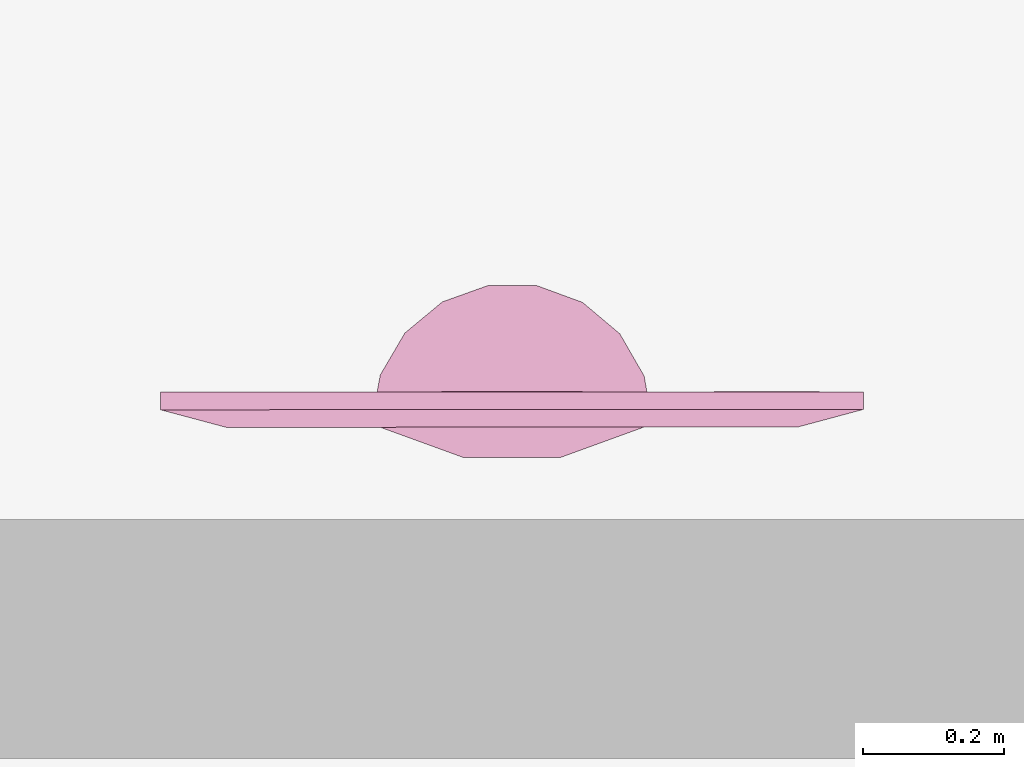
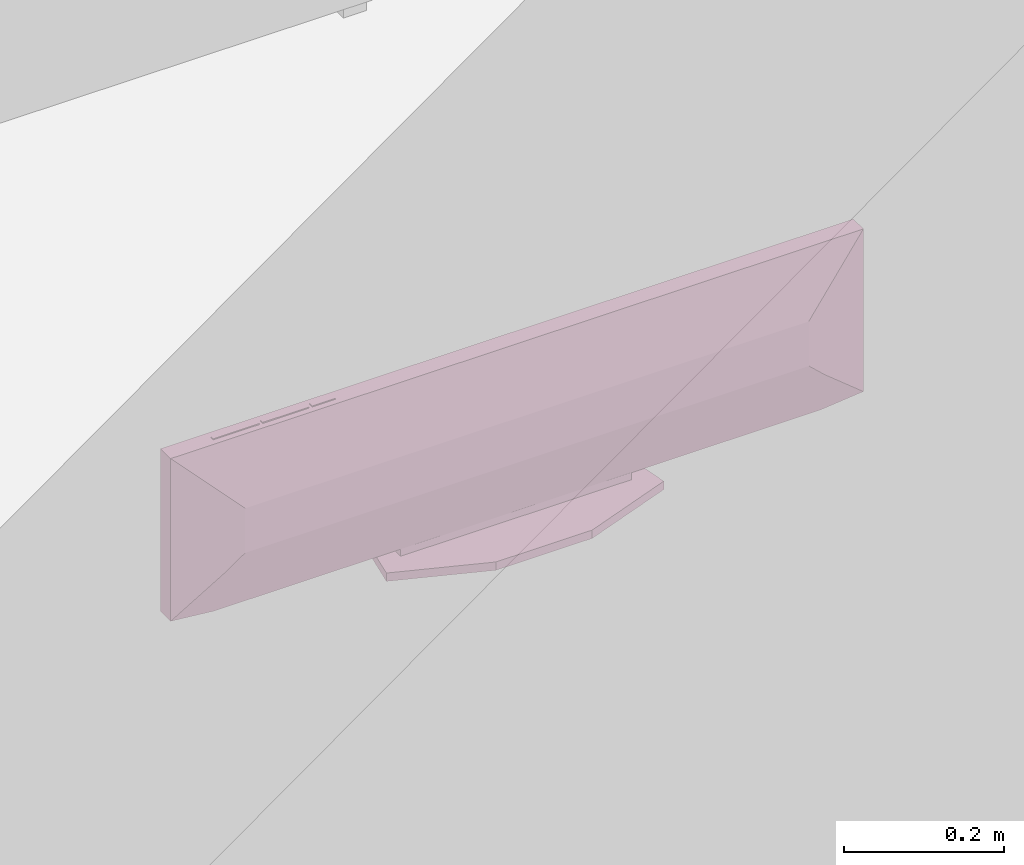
# One storey, part 133 of 171: 1 furnishing.
"""IFC2X3 building model written with IfcOpenShell, lengths in millimetres."""

from ifc_helpers import new_model, entity, si_unit, converted_unit, derived_unit, money_unit, direction, frame, origin_with_axes, place, context, subcontext, project, spatial, faceted_brep, source, transform, mapped, type_object, element, save


model = new_model("IFC2X3")

# Units and contexts
model_context = context("Model", 3, precision=0.01, world=origin_with_axes(), true_north=direction((0.0, 1.0)))
body_context = subcontext(model_context, "Body", "Model", "MODEL_VIEW")
ifc_project = project(units=[si_unit("LENGTHUNIT", "METRE", prefix="MILLI"), si_unit("AREAUNIT", "SQUARE_METRE"), si_unit("VOLUMEUNIT", "CUBIC_METRE"), converted_unit("PLANEANGLEUNIT", "DEGREE", entity("IfcPlaneAngleMeasure", 0.0174532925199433), si_unit("PLANEANGLEUNIT", "RADIAN"), dimensions=[0, 0, 0, 0, 0, 0, 0]), money_unit("USD"), converted_unit("TIMEUNIT", "Year", entity("IfcTimeMeasure", 31557600.0), si_unit("TIMEUNIT", "SECOND"), dimensions=[0, 0, 1, 0, 0, 0, 0]), si_unit("MASSUNIT", "GRAM", prefix="KILO"), si_unit("THERMODYNAMICTEMPERATUREUNIT", "DEGREE_CELSIUS"), si_unit("LUMINOUSINTENSITYUNIT", "LUMEN"), si_unit("ENERGYUNIT", "JOULE", prefix="MEGA"), derived_unit("THERMALCONDUCTANCEUNIT", [(si_unit("POWERUNIT", "WATT"), 1), (si_unit("LENGTHUNIT", "METRE"), -1), (si_unit("THERMODYNAMICTEMPERATUREUNIT", "KELVIN"), -1)]), derived_unit("SPECIFICHEATCAPACITYUNIT", [(si_unit("ENERGYUNIT", "JOULE"), 1), (si_unit("MASSUNIT", "GRAM", prefix="KILO"), -1), (si_unit("THERMODYNAMICTEMPERATUREUNIT", "KELVIN"), -1)]), derived_unit("MASSDENSITYUNIT", [(si_unit("MASSUNIT", "GRAM", prefix="KILO"), 1), (si_unit("VOLUMEUNIT", "CUBIC_METRE"), -1)])], contexts=[model_context])

# Site, building, storey
site_placement = place(None, origin_with_axes())
site = spatial("IfcSite", under=ifc_project, at=site_placement, Name="Site", CompositionType="ELEMENT")
building_placement = place(site_placement, origin_with_axes())
building = spatial("IfcBuilding", under=site, at=building_placement, Name="Bâtiment", CompositionType="ELEMENT")
storey_placement = place(building_placement, frame((0.0, 0.0, 3000.0), z_axis=(0.0, 0.0, 1.0), x_axis=(1.0, 0.0, 0.0)))
storey = spatial("IfcBuildingStorey", under=building, at=storey_placement, Name="rdc", CompositionType="ELEMENT", Elevation=3000.0)

# Furnishing
furnishing_element_type = type_object("IfcFurnishingElementType", Name="Ecran TV plasma")
shared_shape = source(origin_with_axes(), body_context, "Body", "Brep", [
    faceted_brep([(300.0, 45.45454545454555, 0.0), (311.9952377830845, -22.76722074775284, 0.0), (311.9952377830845, -22.76722074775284, 12.72727272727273), (300.0, 45.45454545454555, 12.72727272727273), (300.362869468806, 45.66379498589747, 0.0), (430.8157560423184, 93.01588086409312, 0.0), (569.5967719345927, 92.94321528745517, 0.0), (700.0000000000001, 45.45454545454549, 0.0), (699.9923846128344, 43.70923835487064, 0.0), (687.402263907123, -24.40525330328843, 0.0), (652.3327960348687, -84.13989598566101, 0.0), (598.9906470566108, -128.3293772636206, 0.0), (533.7743345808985, -151.6730637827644, 0.0), (464.5067103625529, -151.3708248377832, 0.0), (399.4965906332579, -127.4589147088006, 0.0), (346.5420938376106, -82.80562387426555, 0.0), (346.5420938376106, -82.80562387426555, 12.72727272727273), (399.4965906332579, -127.4589147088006, 12.72727272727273), (464.5067103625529, -151.3708248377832, 12.72727272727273), (533.7743345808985, -151.6730637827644, 12.72727272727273), (598.9906470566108, -128.3293772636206, 12.72727272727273), (652.3327960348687, -84.13989598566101, 12.72727272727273), (687.402263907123, -24.40525330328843, 12.72727272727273), (699.9923846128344, 43.70923835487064, 12.72727272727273), (700.0000000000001, 45.45454545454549, 12.72727272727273), (569.5967719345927, 92.94321528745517, 12.72727272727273), (430.8157560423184, 93.01588086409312, 12.72727272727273), (300.362869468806, 45.66379498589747, 12.72727272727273)], [[[0, 1, 2, 3]], [[0, 4, 5, 6, 7, 8, 9, 10, 11, 12, 13, 14, 15, 1]], [[1, 15, 16, 2]], [[3, 2, 16, 17, 18, 19, 20, 21, 22, 23, 24, 25, 26, 27]], [[4, 0, 3, 27]], [[5, 4, 27, 26]], [[6, 5, 26, 25]], [[7, 6, 25, 24]], [[8, 7, 24, 23]], [[9, 8, 23, 22]], [[10, 9, 22, 21]], [[11, 10, 21, 20]], [[12, 11, 20, 19]], [[13, 12, 19, 18]], [[14, 13, 18, 17]], [[15, 14, 17, 16]]]),
    faceted_brep([(666.6666666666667, 2.500000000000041, 12.72727272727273), (666.6666666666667, 22.50000000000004, 12.72727272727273), (666.6666666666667, 22.50000000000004, 25.45454545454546), (666.6666666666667, 2.500000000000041, 25.45454545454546), (333.3333333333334, 2.500000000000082, 12.72727272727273), (333.3333333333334, 22.50000000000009, 12.72727272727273), (333.3333333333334, 22.50000000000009, 25.45454545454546), (333.3333333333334, 2.500000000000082, 25.45454545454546)], [[[0, 1, 2, 3]], [[0, 4, 5, 1]], [[1, 5, 6, 2]], [[3, 2, 6, 7]], [[4, 0, 3, 7]], [[5, 4, 7, 6]]]),
    faceted_brep([(62.5, -0.2539999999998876, 65.45454545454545), (62.5, -0.2539999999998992, 254.5454545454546), (62.5, 0.0, 254.5454545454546), (62.5, 0.0, 65.45454545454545), (937.5, -0.2539999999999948, 65.45454545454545), (937.5, -0.2540000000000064, 254.5454545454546), (937.5, 0.0, 254.5454545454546), (937.5, 0.0, 65.45454545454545)], [[[0, 1, 2, 3]], [[0, 4, 5, 1]], [[1, 5, 6, 2]], [[3, 2, 6, 7]], [[4, 0, 3, 7]], [[5, 4, 7, 6]]]),
    faceted_brep([(937.5, 0.0, 25.45454545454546), (1000.0, 0.0, 31.81818181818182), (1000.0, 0.0, 280.0), (0.0, 0.0, 280.0), (0.0, 0.0, 31.81818181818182), (62.5, 0.0, 25.45454545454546), (937.5000003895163, 25.00000000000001, 25.4545450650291), (1000.000000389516, 25.0, 31.81818187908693), (1000.000000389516, 24.99999999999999, 279.9999999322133), (3.895163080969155e-07, 25.00000000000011, 279.9999999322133), (3.895163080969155e-07, 25.00000000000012, 31.81818187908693), (62.50000038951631, 25.00000000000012, 25.4545450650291), (934.156616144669, 42.64268163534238, 91.29792930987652), (906.6987288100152, 50.00000037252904, 118.7558166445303), (906.6987288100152, 50.00000037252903, 186.6987283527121), (93.30127196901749, 50.00000037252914, 186.6987283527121), (93.30127196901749, 50.00000037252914, 118.7558166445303), (65.84338463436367, 42.64268163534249, 91.29792930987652)], [[[0, 1, 2, 3, 4, 5]], [[1, 0, 6, 7]], [[2, 1, 7, 8]], [[3, 2, 8, 9]], [[4, 3, 9, 10]], [[5, 4, 10, 11]], [[0, 5, 11, 6]], [[7, 6, 12]], [[8, 7, 12, 13, 14]], [[9, 8, 14, 15]], [[10, 9, 15, 16, 17]], [[11, 10, 17]], [[6, 11, 17, 16, 13, 12]], [[14, 13, 16, 15]]]),
    faceted_brep([(500.0, -0.7937499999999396, 39.45454545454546), (490.0, -0.7937499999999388, 46.45454545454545), (490.0, 0.0, 46.45454545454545), (500.0, 0.0, 39.45454545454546), (510.0, -0.7937499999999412, 46.45454545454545), (600.0, -0.7937499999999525, 52.18181818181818), (400.0, -0.7937499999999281, 52.18181818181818), (400.0, 0.0, 52.18181818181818), (600.0, 0.0, 52.18181818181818), (510.0, 0.0, 46.45454545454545)], [[[0, 1, 2, 3]], [[0, 4, 5, 6, 1]], [[1, 6, 7, 2]], [[3, 2, 7, 8, 9]], [[4, 0, 3, 9]], [[5, 4, 9, 8]], [[6, 5, 8, 7]]]),
    faceted_brep([(866.6666666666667, 10.0, 280.0), (933.3333333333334, 9.999999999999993, 280.0), (933.3333333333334, 9.999999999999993, 281.5875), (866.6666666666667, 10.0, 281.5875), (866.6666666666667, 16.25, 280.0), (933.3333333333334, 16.24999999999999, 280.0), (933.3333333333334, 16.24999999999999, 281.5875), (866.6666666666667, 16.25, 281.5875)], [[[0, 1, 2, 3]], [[1, 0, 4, 5]], [[2, 1, 5, 6]], [[3, 2, 6, 7]], [[0, 3, 7, 4]], [[5, 4, 7, 6]]]),
    faceted_brep([(795.2380952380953, 10.00000000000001, 280.0), (861.9047619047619, 10.0, 280.0), (861.9047619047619, 10.0, 281.5875), (795.2380952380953, 10.00000000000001, 281.5875), (795.2380952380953, 16.25000000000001, 280.0), (861.9047619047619, 16.25, 280.0), (861.9047619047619, 16.25, 281.5875), (795.2380952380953, 16.25000000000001, 281.5875)], [[[0, 1, 2, 3]], [[1, 0, 4, 5]], [[2, 1, 5, 6]], [[3, 2, 6, 7]], [[0, 3, 7, 4]], [[5, 4, 7, 6]]]),
    faceted_brep([(757.1428571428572, 10.00000000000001, 280.0), (790.4761904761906, 10.00000000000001, 280.0), (790.4761904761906, 10.00000000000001, 281.5875), (757.1428571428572, 10.00000000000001, 281.5875), (757.1428571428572, 16.25000000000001, 280.0), (790.4761904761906, 16.25000000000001, 280.0), (790.4761904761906, 16.25000000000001, 281.5875), (757.1428571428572, 16.25000000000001, 281.5875)], [[[0, 1, 2, 3]], [[1, 0, 4, 5]], [[2, 1, 5, 6]], [[3, 2, 6, 7]], [[0, 3, 7, 4]], [[5, 4, 7, 6]]]),
])
furnishing_placement = place(storey_placement, frame((2232288.037728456, -640503.5620693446, 800.0000000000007), z_axis=(0.0, 0.0, 1.0), x_axis=(-0.999999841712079, -0.0005626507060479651, 0.0)))
element("IfcFurnishingElement", 1, at=furnishing_placement, inside=storey, type_object=furnishing_element_type, Name="Obj.-034", context=body_context, shape_type="MappedRepresentation", body=[
    mapped(shared_shape, transform((0.0, 0.0, 0.0))),
])

save(model, "model.ifc")
